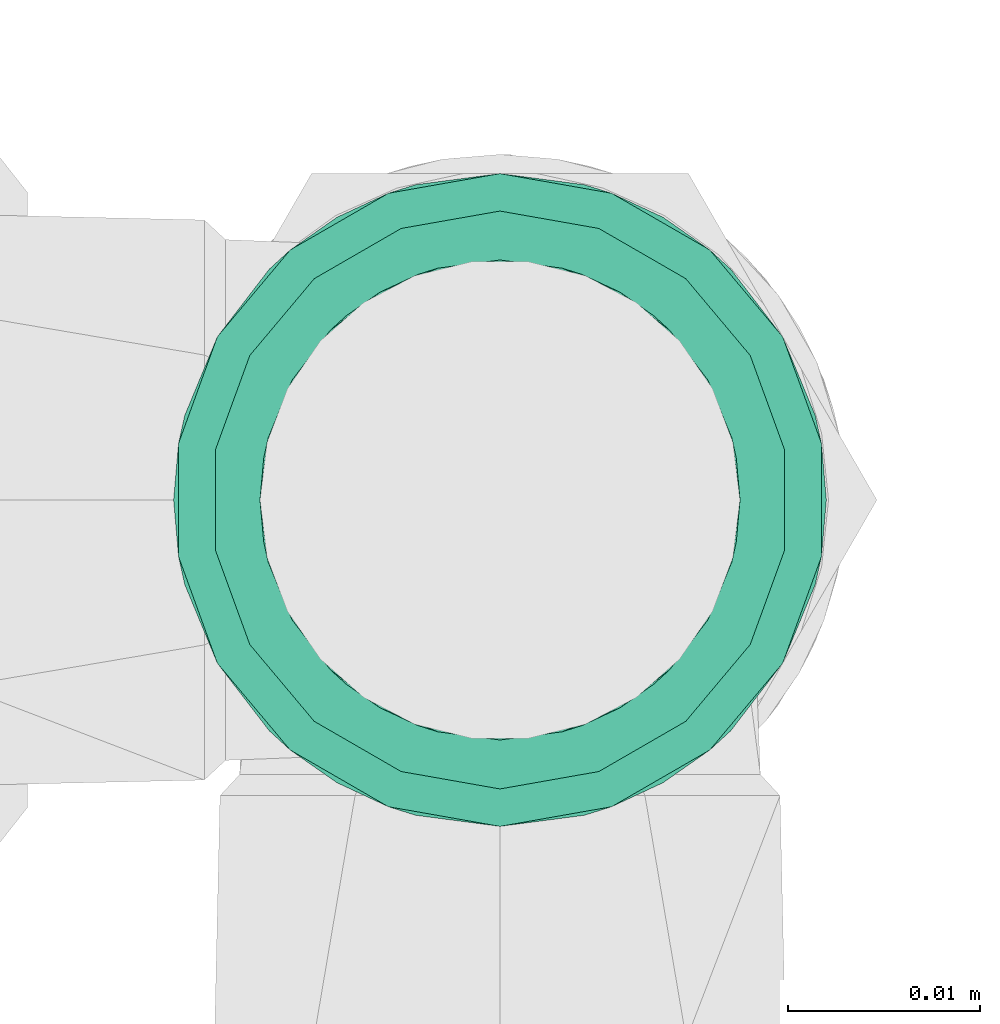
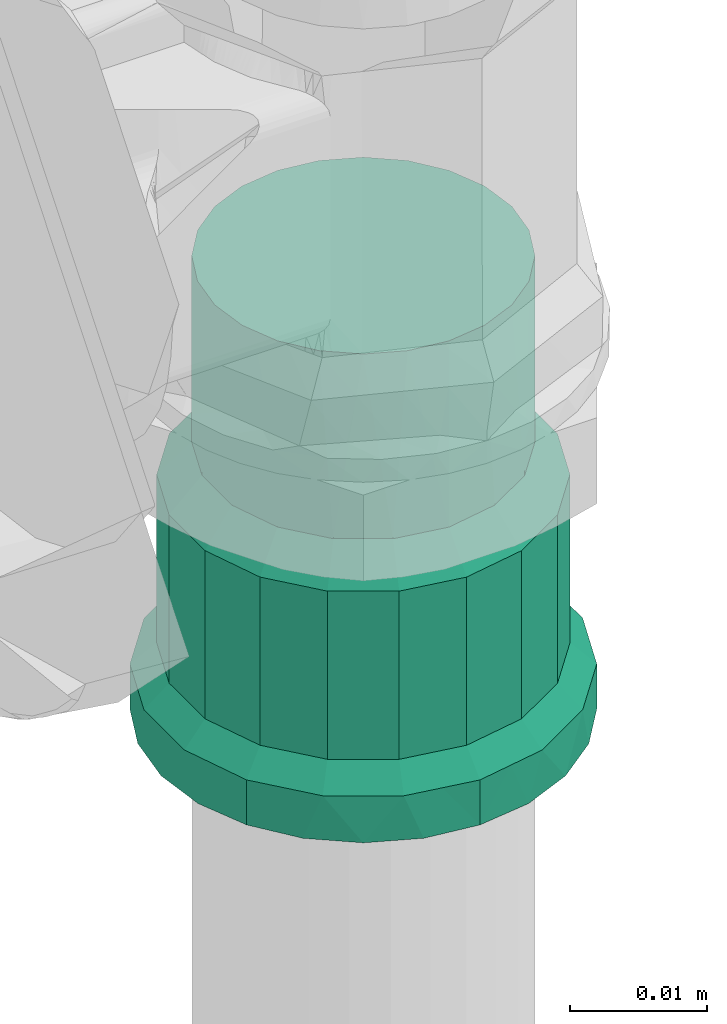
# One storey, part 372 of 589: 1 flow fitting.
"""IFC2X3 building model written with IfcOpenShell, lengths in millimetres."""

from ifc_helpers import new_model, entity, si_unit, converted_unit, derived_unit, direction, frame, origin, place, context, subcontext, project, spatial, faceted_brep, source, transform, mapped, material, type_object, type_shapes, element, save


model = new_model("IFC2X3")

# Units and contexts
model_context = context("Model", 3, precision=0.01, world=origin(), true_north=direction((6.123031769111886e-17, 1.0)))
body_context = subcontext(model_context, "Body", "Model", "MODEL_VIEW")
ifc_project = project(units=[si_unit("LENGTHUNIT", "METRE", prefix="MILLI"), si_unit("AREAUNIT", "SQUARE_METRE"), si_unit("VOLUMEUNIT", "CUBIC_METRE"), converted_unit("PLANEANGLEUNIT", "DEGREE", entity("IfcRatioMeasure", 0.017453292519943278), si_unit("PLANEANGLEUNIT", "RADIAN"), dimensions=[0, 0, 0, 0, 0, 0, 0]), si_unit("MASSUNIT", "GRAM", prefix="KILO"), derived_unit("MASSDENSITYUNIT", [(si_unit("MASSUNIT", "GRAM", prefix="KILO"), 1), (si_unit("LENGTHUNIT", "METRE"), -3)]), derived_unit("IONCONCENTRATIONUNIT", [(si_unit("MASSUNIT", "GRAM", prefix="KILO"), 1), (si_unit("LENGTHUNIT", "METRE"), -3)]), derived_unit("MOMENTOFINERTIAUNIT", [(si_unit("LENGTHUNIT", "METRE"), 4)]), si_unit("TIMEUNIT", "SECOND"), si_unit("FREQUENCYUNIT", "HERTZ"), si_unit("THERMODYNAMICTEMPERATUREUNIT", "DEGREE_CELSIUS"), derived_unit("THERMALTRANSMITTANCEUNIT", [(si_unit("MASSUNIT", "GRAM", prefix="KILO"), 1), (si_unit("THERMODYNAMICTEMPERATUREUNIT", "KELVIN"), -1), (si_unit("TIMEUNIT", "SECOND"), -3)]), derived_unit("THERMALCONDUCTANCEUNIT", [(si_unit("MASSUNIT", "GRAM", prefix="KILO"), 1), (si_unit("THERMODYNAMICTEMPERATUREUNIT", "KELVIN"), -1), (si_unit("TIMEUNIT", "SECOND"), -3), (si_unit("LENGTHUNIT", "METRE"), 1)]), derived_unit("VOLUMETRICFLOWRATEUNIT", [(si_unit("LENGTHUNIT", "METRE"), 3), (si_unit("TIMEUNIT", "SECOND"), -1)]), derived_unit("MASSFLOWRATEUNIT", [(si_unit("MASSUNIT", "GRAM", prefix="KILO"), 1), (si_unit("TIMEUNIT", "SECOND"), -1)]), derived_unit("ROTATIONALFREQUENCYUNIT", [(si_unit("TIMEUNIT", "SECOND"), -1)]), si_unit("ELECTRICCURRENTUNIT", "AMPERE"), si_unit("ELECTRICVOLTAGEUNIT", "VOLT"), si_unit("POWERUNIT", "WATT"), si_unit("FORCEUNIT", "NEWTON", prefix="KILO"), si_unit("ILLUMINANCEUNIT", "LUX"), si_unit("LUMINOUSFLUXUNIT", "LUMEN"), si_unit("LUMINOUSINTENSITYUNIT", "CANDELA"), derived_unit("USERDEFINED", [(si_unit("MASSUNIT", "GRAM", prefix="KILO"), -1), (si_unit("LENGTHUNIT", "METRE"), -2), (si_unit("TIMEUNIT", "SECOND"), 3), (si_unit("LUMINOUSFLUXUNIT", "LUMEN"), 1)]), derived_unit("USERDEFINED", [(si_unit("MASSUNIT", "GRAM", prefix="KILO"), 1), (si_unit("TIMEUNIT", "SECOND"), -3), (si_unit("LENGTHUNIT", "METRE"), 3), (si_unit("ELECTRICCURRENTUNIT", "AMPERE"), -2)]), derived_unit("SOUNDPOWERUNIT", [(si_unit("MASSUNIT", "GRAM", prefix="KILO"), 1), (si_unit("TIMEUNIT", "SECOND"), -3), (si_unit("LENGTHUNIT", "METRE"), 2)]), derived_unit("SOUNDPRESSUREUNIT", [(si_unit("MASSUNIT", "GRAM", prefix="KILO"), 1), (si_unit("LENGTHUNIT", "METRE"), -1), (si_unit("TIMEUNIT", "SECOND"), -2)]), derived_unit("LINEARVELOCITYUNIT", [(si_unit("LENGTHUNIT", "METRE"), 1), (si_unit("TIMEUNIT", "SECOND"), -1)]), si_unit("PRESSUREUNIT", "PASCAL"), derived_unit("USERDEFINED", [(si_unit("MASSUNIT", "GRAM", prefix="KILO"), 1), (si_unit("LENGTHUNIT", "METRE"), -2), (si_unit("TIMEUNIT", "SECOND"), -2)]), derived_unit("LINEARFORCEUNIT", [(si_unit("MASSUNIT", "GRAM", prefix="KILO"), 1), (si_unit("TIMEUNIT", "SECOND"), -2)]), derived_unit("PLANARFORCEUNIT", [(si_unit("MASSUNIT", "GRAM", prefix="KILO"), 1), (si_unit("LENGTHUNIT", "METRE"), -1), (si_unit("TIMEUNIT", "SECOND"), -2)]), derived_unit("SPECIFICHEATCAPACITYUNIT", [(si_unit("THERMODYNAMICTEMPERATUREUNIT", "KELVIN"), -1), (si_unit("LENGTHUNIT", "METRE"), 2), (si_unit("TIMEUNIT", "SECOND"), -2)]), derived_unit("HEATINGVALUEUNIT", [(si_unit("LENGTHUNIT", "METRE"), 2), (si_unit("TIMEUNIT", "SECOND"), -2)]), derived_unit("VAPORPERMEABILITYUNIT", [(si_unit("LENGTHUNIT", "METRE"), -1), (si_unit("TIMEUNIT", "SECOND"), 1)]), derived_unit("DYNAMICVISCOSITYUNIT", [(si_unit("MASSUNIT", "GRAM", prefix="KILO"), 1), (si_unit("TIMEUNIT", "SECOND"), -1), (si_unit("LENGTHUNIT", "METRE"), -1)]), derived_unit("THERMALEXPANSIONCOEFFICIENTUNIT", [(si_unit("THERMODYNAMICTEMPERATUREUNIT", "KELVIN"), -1)]), derived_unit("MODULUSOFELASTICITYUNIT", [(si_unit("MASSUNIT", "GRAM", prefix="KILO"), 1), (si_unit("LENGTHUNIT", "METRE"), -1), (si_unit("TIMEUNIT", "SECOND"), -2)]), derived_unit("ISOTHERMALMOISTURECAPACITYUNIT", [(si_unit("LENGTHUNIT", "METRE"), 3), (si_unit("MASSUNIT", "GRAM", prefix="KILO"), -1)]), derived_unit("MOISTUREDIFFUSIVITYUNIT", [(si_unit("TIMEUNIT", "SECOND"), -1), (si_unit("LENGTHUNIT", "METRE"), 2)])], contexts=[model_context])

# Site, building, storey
site_placement = place(None, origin())
site = spatial("IfcSite", under=ifc_project, at=site_placement, Name="Default", CompositionType="ELEMENT")
building_placement = place(site_placement, origin())
building = spatial("IfcBuilding", under=site, at=building_placement, CompositionType="ELEMENT")
storey_placement = place(building_placement, frame((0.0, 0.0, 100.0)))
storey = spatial("IfcBuildingStorey", under=building, at=storey_placement, Name="TÉRREO", CompositionType="ELEMENT", Elevation=100.0)

# Flow fitting
ifc_material = material(Name="PVC Marrom")
pipe_fitting_type = type_object("IfcPipeFittingType", Name="PVC Marrom Soldável_Adaptador Curto com Bolsa e Rosca Aninhado_Rodrigo MEP:Adaptador", PredefinedType="NOTDEFINED", material=ifc_material)
shared_shape = source(origin(), body_context, "Body", "Brep", [
    faceted_brep([(0.0, 6.2499999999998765, -10.825317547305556), (0.0, 12.020815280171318, -12.0208152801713), (0.0, 8.500000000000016, -14.72243186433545), (0.0, 8.838834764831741, -8.83883476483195), (0.0, 3.2352380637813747, -12.07407282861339), (0.0, 14.722431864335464, -8.499999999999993), (0.0, 10.825317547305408, -6.250000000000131), (0.0, 12.074072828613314, -3.2352380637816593), (0.0, 16.42073904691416, -4.399923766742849), (0.0, 12.5, 0.0), (0.0, 17.0, 0.0), (0.0, 12.074072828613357, 3.2352380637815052), (0.0, 16.420739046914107, 4.399923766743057), (0.0, 10.825317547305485, 6.2499999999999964), (0.0, 14.722431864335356, 8.500000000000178), (0.0, 8.83883476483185, 8.838834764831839), (0.0, 12.020815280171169, 12.020815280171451), (0.0, 6.250000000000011, 10.82531754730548), (0.0, 8.499999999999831, 14.722431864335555), (0.0, 3.2352380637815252, 12.07407282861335), (0.0, 4.39992376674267, 16.42073904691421), (0.0, 0.0, 12.5), (0.0, 0.0, 17.0), (0.0, -3.2352380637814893, 12.07407282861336), (0.0, -4.399923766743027, 16.420739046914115), (0.0, -6.24999999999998, 10.825317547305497), (0.0, -8.500000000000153, 14.722431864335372), (0.0, -8.838834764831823, 8.838834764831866), (0.0, -12.020815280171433, 12.020815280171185), (0.0, -10.82531754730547, 6.250000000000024), (0.0, -14.722431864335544, 8.499999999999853), (0.0, -16.42073904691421, 4.399923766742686), (0.0, -12.074072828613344, 3.2352380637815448), (0.0, -17.0, 0.0), (0.0, -12.5, 0.0), (0.0, -16.42073904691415, -4.399923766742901), (0.0, -12.074072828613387, -3.235238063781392), (0.0, -14.722431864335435, -8.500000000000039), (0.0, -10.82531754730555, -6.249999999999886), (0.0, -12.02081528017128, -12.020815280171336), (0.0, -8.838834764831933, -8.838834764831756), (0.0, -8.499999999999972, -14.722431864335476), (0.0, -6.250000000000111, -10.825317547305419), (0.0, -4.399923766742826, -16.42073904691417), (0.0, -3.235238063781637, -12.074072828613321), (0.0, 0.0, -17.0), (0.0, 0.0, -12.5), (0.0, 4.399923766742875, -16.420739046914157), (4.0, -16.487306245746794, 2.907393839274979), (4.0, -15.974612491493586, 5.8147876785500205), (4.0, -13.022146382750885, 10.928115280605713), (4.0, -10.760457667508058, 12.825628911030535), (4.0, -14.498379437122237, 8.371451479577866), (4.0, -2.9501525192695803, 16.742060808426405), (4.0, -5.724460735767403, 15.732601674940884), (4.0, -17.0, 0.0), (4.0, -16.59968259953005, 2.27012779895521), (4.0, -8.498768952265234, 14.723142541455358), (4.0, 5.728407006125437, 15.731165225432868), (4.0, 8.502461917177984, 14.721010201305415), (4.0, 2.954352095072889, 16.74132024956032), (4.0, 10.763674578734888, 12.82292929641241), (4.0, 13.02488724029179, 10.924848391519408), (4.0, 15.976070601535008, 5.8107803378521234), (4.0, 17.0, 0.0), (4.0, 14.5004789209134, 8.367814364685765), (4.0, 0.002099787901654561, 16.741690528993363), (4.0, 15.97607060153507, -5.810780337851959), (4.0, 13.024887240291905, -10.92484839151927), (4.0, 10.763674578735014, -12.822929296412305), (4.0, 14.500478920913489, -8.367814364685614), (4.0, 2.9543520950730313, -16.741320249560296), (4.0, 5.728407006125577, -15.731165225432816), (4.0, 8.502461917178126, -14.721010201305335), (4.0, -16.487306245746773, -2.907393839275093), (4.0, -5.724460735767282, -15.732601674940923), (4.0, -8.498768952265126, -14.72314254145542), (4.0, -2.950152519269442, -16.74206080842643), (4.0, -10.760457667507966, -12.825628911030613), (4.0, -13.022146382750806, -10.928115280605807), (4.0, -15.974612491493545, -5.814787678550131), (4.0, -14.498379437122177, -8.371451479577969), (4.0, 0.002099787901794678, -16.741690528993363), (4.0, -16.599682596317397, -2.2701278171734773), (20.84999999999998, -14.142230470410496, 5.147797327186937), (5.900000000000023, -14.142230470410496, 5.147797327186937), (5.900000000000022, -14.59611523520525, 2.573898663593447), (5.900000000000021, -15.05, 0.0), (20.850000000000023, -15.05, 0.0), (20.85, -14.596115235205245, 2.573898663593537), (20.849999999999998, -14.535973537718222, 2.91495138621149), (20.84999999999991, -7.523910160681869, 13.034311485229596), (5.900000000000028, -7.523910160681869, 13.034311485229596), (5.900000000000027, -9.526169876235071, 11.354453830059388), (5.900000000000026, -11.528429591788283, 9.674596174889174), (20.84999999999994, -11.528429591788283, 9.674596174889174), (20.849999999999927, -9.52616987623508, 11.354453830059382), (5.900000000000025, -12.83533003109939, 7.411196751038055), (20.849999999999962, -12.835330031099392, 7.411196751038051), (5.900000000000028, -5.067831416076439, 13.927979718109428), (20.849999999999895, -5.067831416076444, 13.927979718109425), (20.849999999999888, -2.6117526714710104, 14.821647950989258), (5.900000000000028, -2.6117526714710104, 14.821647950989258), (5.900000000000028, 0.0018589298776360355, 14.8213201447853), (20.849999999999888, 0.0018589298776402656, 14.821320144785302), (20.849999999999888, 2.61547053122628, 14.820992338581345), (5.900000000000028, 2.615470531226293, 14.820992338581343), (20.849999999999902, 7.527179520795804, 13.032423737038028), (5.900000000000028, 7.527179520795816, 13.032423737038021), (5.900000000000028, 5.071325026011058, 13.92670803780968), (20.849999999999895, 5.0713250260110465, 13.926708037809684), (20.84999999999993, 11.530856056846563, 9.671704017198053), (5.900000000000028, 11.530856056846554, 9.671704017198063), (5.900000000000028, 9.52901778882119, 11.35206387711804), (20.849999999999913, 9.529017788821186, 11.352063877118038), (20.849999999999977, 14.143521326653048, 5.144249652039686), (5.900000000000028, 14.143521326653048, 5.144249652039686), (5.900000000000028, 12.837188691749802, 7.407976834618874), (20.849999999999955, 12.837188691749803, 7.407976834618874), (20.850000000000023, 15.05, 0.0), (5.900000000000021, 15.05, 0.0), (20.85000000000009, 14.143521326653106, -5.144249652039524), (5.900000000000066, 14.143521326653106, -5.144249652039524), (5.900000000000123, 7.527179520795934, -13.032423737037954), (5.900000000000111, 9.529017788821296, -11.352063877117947), (5.900000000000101, 11.530856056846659, -9.67170401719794), (20.85000000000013, 11.530856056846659, -9.67170401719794), (20.85000000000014, 9.529017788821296, -11.352063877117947), (20.850000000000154, 7.527179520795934, -13.032423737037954), (20.850000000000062, -14.142230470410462, -5.147797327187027), (5.900000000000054, -14.142230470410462, -5.147797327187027), (5.90000000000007, -12.835330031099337, -7.411196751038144), (5.900000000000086, -11.528429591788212, -9.67459617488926), (20.850000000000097, -11.528429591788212, -9.67459617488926), (20.850000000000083, -12.835330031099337, -7.411196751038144), (20.850000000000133, -7.523910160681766, -13.034311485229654), (5.900000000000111, -7.523910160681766, -13.034311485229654), (5.90000000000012, -5.067831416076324, -13.927979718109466), (5.900000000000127, -2.6117526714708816, -14.821647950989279), (20.850000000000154, -2.6117526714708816, -14.821647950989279), (20.85000000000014, -5.067831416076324, -13.927979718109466), (5.900000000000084, 12.837188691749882, -7.407976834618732), (20.850000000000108, 12.837188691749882, -7.40797683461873), (5.900000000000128, 5.071325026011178, -13.926708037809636), (20.850000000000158, 5.071325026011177, -13.926708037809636), (20.85000000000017, 2.6154705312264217, -14.82099233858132), (5.900000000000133, 2.6154705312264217, -14.82099233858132), (20.850000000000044, -14.535973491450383, -2.91495164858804), (20.85000000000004, -14.667751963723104, -2.1676596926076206), (5.900000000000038, -14.596115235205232, -2.573898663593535), (5.900000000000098, -9.526169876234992, -11.354453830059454), (20.850000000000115, -9.52616987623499, -11.354453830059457), (5.900000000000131, 0.0018589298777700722, -14.821320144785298), (20.850000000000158, 0.0018589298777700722, -14.821320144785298), (40.29999999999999, 3.2352380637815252, -12.07407282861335), (40.29999999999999, 6.250000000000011, -10.82531754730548), (40.29999999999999, 8.83883476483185, -8.838834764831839), (40.29999999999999, 10.825317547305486, -6.249999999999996), (40.29999999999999, 12.074072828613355, -3.2352380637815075), (40.29999999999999, 12.5, 0.0), (40.29999999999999, 12.074072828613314, 3.2352380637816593), (40.29999999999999, 10.825317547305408, 6.250000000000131), (40.29999999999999, 8.838834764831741, 8.83883476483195), (40.29999999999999, 6.2499999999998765, 10.825317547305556), (40.29999999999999, 3.2352380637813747, 12.07407282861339), (40.29999999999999, 0.0, 12.5), (40.29999999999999, -3.235238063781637, 12.074072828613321), (40.29999999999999, -6.250000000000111, 10.825317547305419), (40.29999999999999, -8.838834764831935, 8.838834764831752), (40.29999999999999, -10.825317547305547, 6.249999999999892), (40.29999999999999, -12.074072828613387, 3.235238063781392), (40.29999999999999, -12.5, 0.0), (40.29999999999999, -12.074072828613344, -3.2352380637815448), (40.29999999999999, -10.825317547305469, -6.2500000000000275), (40.29999999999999, -8.838834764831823, -8.838834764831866), (40.29999999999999, -6.24999999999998, -10.825317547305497), (40.29999999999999, -3.2352380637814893, -12.07407282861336), (40.29999999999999, 0.0, -12.5), (23.749999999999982, -12.5, 0.0), (23.74999999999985, -9.57510763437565, 8.035378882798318), (23.749999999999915, -11.746038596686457, 4.275579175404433), (23.749999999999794, -6.249094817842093, 10.825840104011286), (23.74999999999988, -10.660573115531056, 6.155479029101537), (23.74999999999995, -12.182518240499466, 1.8003818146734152), (23.74999999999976, -2.1692297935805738, 12.310338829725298), (23.74999999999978, -4.209162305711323, 11.56808946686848), (23.74999999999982, -7.912101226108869, 9.430609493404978), (23.749999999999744, 2.1723177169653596, 12.309794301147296), (23.749999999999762, 6.251810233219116, 10.824272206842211), (23.749999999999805, 9.577122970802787, 8.032976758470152), (23.749999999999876, 11.747110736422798, 4.272632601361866), (23.749999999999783, 7.9144666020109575, 9.428624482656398), (23.74999999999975, 4.212063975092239, 11.56703325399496), (23.749999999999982, 12.5, 0.0), (23.749999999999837, 10.662116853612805, 6.15280467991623), (23.74999999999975, 0.0015439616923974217, 12.31006656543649), (23.750000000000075, 9.577122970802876, -8.032976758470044), (23.75000000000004, 11.747110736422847, -4.272632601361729), (23.750000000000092, 6.2518102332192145, -10.824272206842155), (23.750000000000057, 10.662116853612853, -6.152804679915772), (23.7500000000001, 2.1723177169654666, -12.309794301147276), (23.7500000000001, 4.212063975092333, -11.56703325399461), (23.75000000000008, 7.914466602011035, -9.428624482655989), (23.750000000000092, -2.1692297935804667, -12.310338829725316), (23.750000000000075, -6.249094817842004, -10.82584010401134), (23.750000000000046, -9.575107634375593, -8.035378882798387), (23.750000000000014, -11.74603859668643, -4.275579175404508), (23.750000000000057, -7.912101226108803, -9.430609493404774), (23.75000000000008, -4.20916230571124, -11.56808946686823), (23.749999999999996, -12.123019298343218, -2.1377895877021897), (23.750000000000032, -10.660573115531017, -6.155479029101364), (23.7500000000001, 0.0015439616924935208, -12.310066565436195), (5.900000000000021, -12.5, 0.0), (20.850000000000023, -12.5, 0.0), (20.850000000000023, -12.07407282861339, -3.2352380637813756), (5.900000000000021, -12.07407282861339, -3.2352380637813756), (4.0, -12.07407282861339, -3.2352380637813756), (4.0, -12.5, 0.0), (20.850000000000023, -10.825317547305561, -6.249999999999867), (5.900000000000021, -10.825317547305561, -6.249999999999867), (4.0, -10.825317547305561, -6.249999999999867), (5.900000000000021, -6.250000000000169, -10.825317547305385), (4.0, -6.250000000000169, -10.825317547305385), (4.0, -8.838834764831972, -8.838834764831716), (5.900000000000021, -8.838834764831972, -8.838834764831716), (20.850000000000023, -8.838834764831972, -8.838834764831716), (20.850000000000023, -6.250000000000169, -10.825317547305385), (5.900000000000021, -3.235238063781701, -12.074072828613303), (4.0, -3.235238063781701, -12.074072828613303), (20.850000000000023, -3.235238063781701, -12.074072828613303), (20.850000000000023, 0.0, -12.5), (5.900000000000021, 0.0, -12.5), (4.0, 0.0, -12.5), (20.850000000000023, 3.2352380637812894, -12.074072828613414), (5.900000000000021, 3.2352380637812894, -12.074072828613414), (4.0, 3.2352380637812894, -12.074072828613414), (20.850000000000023, 6.24999999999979, -10.825317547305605), (5.900000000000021, 6.24999999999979, -10.825317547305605), (4.0, 6.24999999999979, -10.825317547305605), (5.900000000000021, 10.825317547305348, -6.250000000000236), (4.0, 10.825317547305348, -6.250000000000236), (4.0, 8.838834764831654, -8.838834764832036), (5.900000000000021, 8.838834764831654, -8.838834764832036), (20.850000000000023, 8.838834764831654, -8.838834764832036), (20.850000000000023, 10.825317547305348, -6.250000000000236), (5.900000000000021, 12.07407282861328, -3.2352380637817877), (4.0, 12.07407282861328, -3.2352380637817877), (20.850000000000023, 12.07407282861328, -3.2352380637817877), (20.850000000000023, 12.5, 0.0), (5.900000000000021, 12.5, 0.0), (4.0, 12.5, 0.0), (20.850000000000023, 12.074072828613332, 3.2352380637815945), (5.900000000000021, 12.074072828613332, 3.2352380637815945), (4.0, 12.074072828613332, 3.2352380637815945), (20.850000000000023, 10.82531754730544, 6.250000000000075), (5.900000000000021, 10.82531754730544, 6.250000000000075), (4.0, 10.82531754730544, 6.250000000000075), (5.900000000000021, 6.249999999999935, 10.825317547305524), (4.0, 6.249999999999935, 10.825317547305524), (4.0, 8.838834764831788, 8.838834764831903), (5.900000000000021, 8.838834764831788, 8.838834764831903), (20.850000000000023, 8.838834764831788, 8.838834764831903), (20.850000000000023, 6.249999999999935, 10.825317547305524), (5.900000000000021, 3.2352380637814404, 12.074072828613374), (4.0, 3.2352380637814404, 12.074072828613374), (20.850000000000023, 3.2352380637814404, 12.074072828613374), (20.850000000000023, 0.0, 12.5), (5.900000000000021, 0.0, 12.5), (4.0, 0.0, 12.5), (20.850000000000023, -3.2352380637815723, 12.074072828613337), (5.900000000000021, -3.2352380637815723, 12.074072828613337), (4.0, -3.2352380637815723, 12.074072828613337), (20.850000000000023, -6.250000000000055, 10.825317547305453), (5.900000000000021, -6.250000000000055, 10.825317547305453), (4.0, -6.250000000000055, 10.825317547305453), (5.900000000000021, -10.825317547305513, 6.249999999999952), (4.0, -10.825317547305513, 6.249999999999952), (4.0, -8.838834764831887, 8.838834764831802), (5.900000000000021, -8.838834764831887, 8.838834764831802), (20.850000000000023, -8.838834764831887, 8.838834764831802), (20.850000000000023, -10.825317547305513, 6.249999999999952), (5.900000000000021, -12.07407282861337, 3.2352380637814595), (4.0, -12.07407282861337, 3.2352380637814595), (20.850000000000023, -12.07407282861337, 3.2352380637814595)], [[[0, 1, 2]], [[3, 1, 0]], [[4, 0, 2]], [[1, 3, 5]], [[5, 3, 6]], [[5, 6, 7]], [[8, 5, 7]], [[9, 8, 7]], [[10, 8, 9]], [[10, 9, 11]], [[12, 10, 11]], [[12, 11, 13]], [[14, 12, 13]], [[14, 13, 15]], [[15, 16, 14]], [[15, 17, 16]], [[18, 16, 17]], [[19, 18, 17]], [[18, 19, 20]], [[21, 20, 19]], [[22, 20, 21]], [[21, 23, 22]], [[24, 22, 23]], [[25, 24, 23]], [[24, 25, 26]], [[25, 27, 26]], [[27, 28, 26]], [[28, 27, 29]], [[28, 29, 30]], [[30, 29, 31]], [[31, 29, 32]], [[33, 31, 32]], [[32, 34, 33]], [[33, 34, 35]], [[34, 36, 35]], [[37, 35, 36]], [[37, 36, 38]], [[39, 37, 38]], [[40, 39, 38]], [[40, 41, 39]], [[42, 41, 40]], [[43, 41, 42]], [[42, 44, 43]], [[43, 44, 45]], [[46, 45, 44]], [[46, 4, 47]], [[45, 46, 47]], [[2, 47, 4]], [[48, 49, 31]], [[28, 50, 51]], [[50, 30, 49, 52]], [[53, 24, 54]], [[30, 31, 49]], [[33, 55, 56, 48]], [[51, 57, 26]], [[51, 26, 28]], [[30, 50, 28]], [[58, 59, 18]], [[58, 18, 20]], [[26, 57, 54]], [[26, 54, 24]], [[22, 24, 53]], [[33, 48, 31]], [[20, 60, 58]], [[16, 61, 62]], [[12, 63, 64]], [[63, 14, 62, 65]], [[12, 64, 10]], [[18, 61, 16]], [[22, 53, 66, 60]], [[22, 60, 20]], [[14, 16, 62]], [[59, 61, 18]], [[14, 63, 12]], [[8, 64, 67]], [[1, 68, 69]], [[68, 5, 67, 70]], [[71, 47, 72]], [[5, 8, 67]], [[8, 10, 64]], [[2, 72, 47]], [[69, 73, 2]], [[5, 68, 1]], [[74, 33, 35]], [[75, 76, 41]], [[2, 73, 72]], [[75, 41, 43]], [[45, 47, 71]], [[69, 2, 1]], [[43, 77, 75]], [[39, 78, 79]], [[35, 80, 74]], [[80, 37, 79, 81]], [[37, 80, 35]], [[41, 78, 39]], [[45, 71, 82, 77]], [[45, 77, 43]], [[37, 39, 79]], [[76, 78, 41]], [[33, 74, 83, 55]], [[84, 85, 86, 87, 88, 89, 90]], [[91, 92, 93, 94, 95, 96]], [[97, 85, 84, 98, 95, 94]], [[99, 92, 91, 100, 101, 102]], [[103, 102, 101, 104, 105, 106]], [[107, 108, 109, 106, 105, 110]], [[111, 112, 113, 108, 107, 114]], [[115, 116, 117, 112, 111, 118]], [[115, 119, 120, 116]], [[120, 119, 121, 122]], [[123, 124, 125, 126, 127, 128]], [[129, 130, 131, 132, 133, 134]], [[135, 136, 137, 138, 139, 140]], [[141, 122, 121, 142, 126, 125]], [[143, 123, 128, 144, 145, 146]], [[147, 148, 88, 87, 149, 130, 129]], [[133, 132, 150, 136, 135, 151]], [[152, 146, 145, 153, 139, 138]], [[154, 155, 156, 157, 158, 159, 160, 161, 162, 163, 164, 165, 166, 167, 168, 169, 170, 171, 172, 173, 174, 175, 176, 177]], [[178, 171, 170]], [[179, 169, 168]], [[170, 169, 180]], [[168, 167, 181]], [[169, 179, 182, 180]], [[170, 180, 183, 178]], [[166, 184, 185, 181]], [[168, 181, 186, 179]], [[184, 166, 165]], [[181, 167, 166]], [[164, 187, 165]], [[163, 188, 164]], [[189, 162, 161]], [[163, 162, 188]], [[190, 161, 160]], [[162, 189, 191, 188]], [[164, 188, 192, 187]], [[160, 193, 190]], [[161, 190, 194, 189]], [[160, 159, 193]], [[165, 187, 195, 184]], [[193, 159, 158]], [[196, 157, 156]], [[158, 157, 197]], [[156, 155, 198]], [[157, 196, 199, 197]], [[197, 193, 158]], [[154, 200, 201, 198]], [[156, 198, 202, 196]], [[200, 154, 177]], [[198, 155, 154]], [[176, 203, 177]], [[175, 204, 176]], [[205, 174, 173]], [[175, 174, 204]], [[206, 173, 172]], [[174, 205, 207, 204]], [[176, 204, 208, 203]], [[172, 178, 209, 206]], [[173, 206, 210, 205]], [[172, 171, 178]], [[177, 203, 211, 200]], [[212, 213, 214, 215, 216, 36, 34, 217]], [[215, 214, 218, 219, 220, 38, 36, 216]], [[221, 222, 42, 40, 223, 224, 225, 226]], [[225, 224, 223, 40, 38, 220, 219, 218]], [[227, 228, 44, 42, 222, 221, 226, 229]], [[227, 229, 230, 231, 232, 46, 44, 228]], [[231, 230, 233, 234, 235, 4, 46, 232]], [[234, 233, 236, 237, 238, 0, 4, 235]], [[239, 240, 6, 3, 241, 242, 243, 244]], [[243, 242, 241, 3, 0, 238, 237, 236]], [[245, 246, 7, 6, 240, 239, 244, 247]], [[245, 247, 248, 249, 250, 9, 7, 246]], [[249, 248, 251, 252, 253, 11, 9, 250]], [[252, 251, 254, 255, 256, 13, 11, 253]], [[257, 258, 17, 15, 259, 260, 261, 262]], [[261, 260, 259, 15, 13, 256, 255, 254]], [[263, 264, 19, 17, 258, 257, 262, 265]], [[263, 265, 266, 267, 268, 21, 19, 264]], [[267, 266, 269, 270, 271, 23, 21, 268]], [[270, 269, 272, 273, 274, 25, 23, 271]], [[275, 276, 29, 27, 277, 278, 279, 280]], [[279, 278, 277, 27, 25, 274, 273, 272]], [[281, 282, 32, 29, 276, 275, 280, 283]], [[281, 283, 213, 212, 217, 34, 32, 282]], [[120, 122, 67, 64]], [[73, 123, 143, 146, 71, 72]], [[123, 73, 69, 68, 125, 124]], [[70, 67, 122, 141, 125, 68]], [[77, 138, 137, 136, 76, 75]], [[130, 80, 81, 79, 132, 131]], [[149, 87, 55, 83, 74, 80, 130]], [[82, 71, 146, 152, 138, 77]], [[78, 76, 136, 150, 132, 79]], [[49, 48, 56, 55, 87, 86, 85]], [[52, 49, 85, 97, 94, 50]], [[51, 50, 94, 93, 92, 57]], [[92, 99, 102, 53, 54, 57]], [[103, 106, 60, 66, 53, 102]], [[109, 108, 59, 58, 60, 106]], [[116, 120, 64, 63]], [[112, 117, 116, 63, 65, 62]], [[108, 113, 112, 62, 61, 59]], [[233, 230, 229, 226, 225, 218, 214, 213, 283, 280, 279, 272, 269, 266, 265, 262, 261, 254, 251, 248, 247, 244, 243, 236]], [[180, 84, 90, 89, 88, 178, 183]], [[184, 101, 100, 91, 181, 185]], [[96, 95, 179, 186, 181, 91]], [[98, 84, 180, 182, 179, 95]], [[101, 184, 195, 187, 105, 104]], [[190, 115, 118, 111, 189, 194]], [[105, 187, 192, 188, 107, 110]], [[190, 193, 119, 115]], [[114, 107, 188, 191, 189, 111]], [[193, 197, 121, 119]], [[128, 198, 201, 200, 145, 144]], [[198, 128, 127, 126, 196, 202]], [[142, 121, 197, 199, 196, 126]], [[139, 203, 208, 204, 135, 140]], [[206, 129, 134, 133, 205, 210]], [[209, 178, 88, 148, 147, 129, 206]], [[153, 145, 200, 211, 203, 139]], [[151, 135, 204, 207, 205, 133]]]),
])
type_shapes(pipe_fitting_type, [shared_shape])
flow_fitting_placement = place(storey_placement, frame((-2746.898265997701, 1275.961226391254, 2145.25), z_axis=(-1.0, 0.0, 0.0), x_axis=(0.0, 0.0, 1.0)))
element("IfcFlowFitting", 1, at=flow_fitting_placement, inside=storey, type_object=pipe_fitting_type, material=ifc_material, Name="PVC Marrom Soldável_Adaptador Curto com Bolsa e Rosca Aninhado_Rodrigo MEP:Adaptador", ObjectType="PVC Marrom Soldável_Adaptador Curto com Bolsa e Rosca Aninhado_Rodrigo MEP:Adaptador", context=body_context, shape_type="MappedRepresentation", body=[
    mapped(shared_shape, transform((0.0, 0.0, 0.0), scale=1.0)),
])

save(model, "model.ifc")
